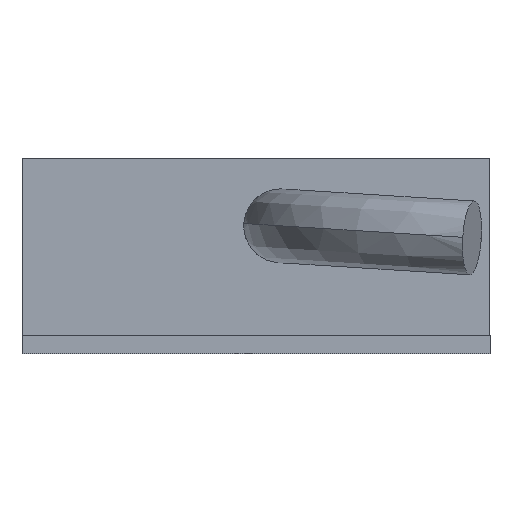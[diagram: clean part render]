
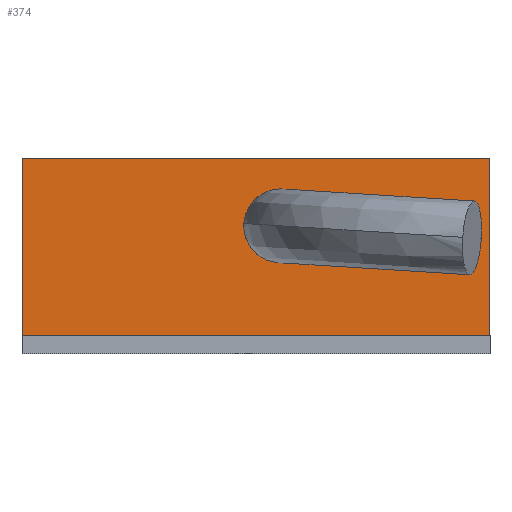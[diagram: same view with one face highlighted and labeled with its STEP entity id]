
A CAD part, left-side view. The second image highlights one B-rep face of the part: STEP entity #374.
In plain terms, the highlighted planar face has unit normal (-1, 0, 0).
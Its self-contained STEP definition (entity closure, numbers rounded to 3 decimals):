
#33 = DIRECTION ( 'NONE',  ( 0., 0., -1. ) ) ;
#177 = ORIENTED_EDGE ( 'NONE', *, *, #10561, .F. ) ;
#358 = CARTESIAN_POINT ( 'NONE',  ( -104.25, 16.999, 5.45 ) ) ;
#372 = LINE ( 'NONE', #3744, #3515 ) ;
#374 = ADVANCED_FACE ( 'NONE', ( #1874, #8400 ), #9963, .T. ) ;
#441 = AXIS2_PLACEMENT_3D ( 'NONE', #8056, #2310, #2430 ) ;
#466 = ORIENTED_EDGE ( 'NONE', *, *, #7729, .F. ) ;
#546 = EDGE_CURVE ( 'NONE', #1649, #10518, #372, .T. ) ;
#957 = EDGE_CURVE ( 'NONE', #2428, #1649, #7635, .T. ) ;
#1136 = AXIS2_PLACEMENT_3D ( 'NONE', #9925, #5180, #9839 ) ;
#1437 = LINE ( 'NONE', #358, #10308 ) ;
#1649 = VERTEX_POINT ( 'NONE', #10706 ) ;
#1843 = DIRECTION ( 'NONE',  ( -1., 0., 0. ) ) ;
#1874 = FACE_BOUND ( 'NONE', #12273, .T. ) ;
#1904 = EDGE_LOOP ( 'NONE', ( #8978, #9834, #7031, #466 ) ) ;
#2310 = DIRECTION ( 'NONE',  ( -1., 0., 0. ) ) ;
#2428 = VERTEX_POINT ( 'NONE', #11460 ) ;
#2430 = DIRECTION ( 'NONE',  ( 0., -1., 0. ) ) ;
#2567 = CARTESIAN_POINT ( 'NONE',  ( -104.25, -7.001, -0.05 ) ) ;
#2637 = VECTOR ( 'NONE', #7135, 1000. ) ;
#3515 = VECTOR ( 'NONE', #9586, 1000. ) ;
#3673 = DIRECTION ( 'NONE',  ( 0., -1., 0. ) ) ;
#3744 = CARTESIAN_POINT ( 'NONE',  ( -104.25, 16.999, -8.95 ) ) ;
#4298 = ORIENTED_EDGE ( 'NONE', *, *, #9075, .F. ) ;
#4420 = AXIS2_PLACEMENT_3D ( 'NONE', #11239, #1843, #3673 ) ;
#4609 = CARTESIAN_POINT ( 'NONE',  ( -104.25, 16.999, 5.45 ) ) ;
#4931 = CARTESIAN_POINT ( 'NONE',  ( -104.25, 16.999, -8.95 ) ) ;
#4970 = VECTOR ( 'NONE', #33, 1000. ) ;
#5038 = CIRCLE ( 'NONE', #441, 3. ) ;
#5180 = DIRECTION ( 'NONE',  ( -1., 0., 0. ) ) ;
#6047 = VERTEX_POINT ( 'NONE', #4609 ) ;
#7031 = ORIENTED_EDGE ( 'NONE', *, *, #957, .F. ) ;
#7135 = DIRECTION ( 'NONE',  ( 0., 0., -1. ) ) ;
#7484 = CARTESIAN_POINT ( 'NONE',  ( -104.25, -1.001, -0.05 ) ) ;
#7635 = LINE ( 'NONE', #10472, #4970 ) ;
#7674 = LINE ( 'NONE', #9966, #2637 ) ;
#7729 = EDGE_CURVE ( 'NONE', #6047, #2428, #1437, .T. ) ;
#7953 = DIRECTION ( 'NONE',  ( 0., -1., 0. ) ) ;
#8056 = CARTESIAN_POINT ( 'NONE',  ( -104.25, -4.001, -0.05 ) ) ;
#8311 = EDGE_CURVE ( 'NONE', #6047, #10518, #7674, .T. ) ;
#8380 = VERTEX_POINT ( 'NONE', #2567 ) ;
#8400 = FACE_OUTER_BOUND ( 'NONE', #1904, .T. ) ;
#8978 = ORIENTED_EDGE ( 'NONE', *, *, #8311, .T. ) ;
#9075 = EDGE_CURVE ( 'NONE', #8380, #11455, #9385, .T. ) ;
#9385 = CIRCLE ( 'NONE', #4420, 3. ) ;
#9586 = DIRECTION ( 'NONE',  ( 0., 1., 0. ) ) ;
#9834 = ORIENTED_EDGE ( 'NONE', *, *, #546, .F. ) ;
#9839 = DIRECTION ( 'NONE',  ( 0., -1., 0. ) ) ;
#9925 = CARTESIAN_POINT ( 'NONE',  ( -104.25, 20.599, -12.95 ) ) ;
#9963 = PLANE ( 'NONE',  #1136 ) ;
#9966 = CARTESIAN_POINT ( 'NONE',  ( -104.25, 16.999, 5.45 ) ) ;
#10308 = VECTOR ( 'NONE', #7953, 1000. ) ;
#10472 = CARTESIAN_POINT ( 'NONE',  ( -104.25, -21.001, 5.45 ) ) ;
#10518 = VERTEX_POINT ( 'NONE', #4931 ) ;
#10561 = EDGE_CURVE ( 'NONE', #11455, #8380, #5038, .T. ) ;
#10706 = CARTESIAN_POINT ( 'NONE',  ( -104.25, -21.001, -8.95 ) ) ;
#11239 = CARTESIAN_POINT ( 'NONE',  ( -104.25, -4.001, -0.05 ) ) ;
#11455 = VERTEX_POINT ( 'NONE', #7484 ) ;
#11460 = CARTESIAN_POINT ( 'NONE',  ( -104.25, -21.001, 5.45 ) ) ;
#12273 = EDGE_LOOP ( 'NONE', ( #4298, #177 ) ) ;
